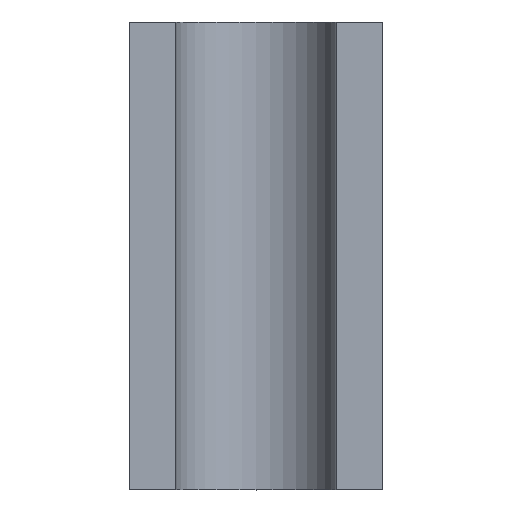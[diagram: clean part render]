
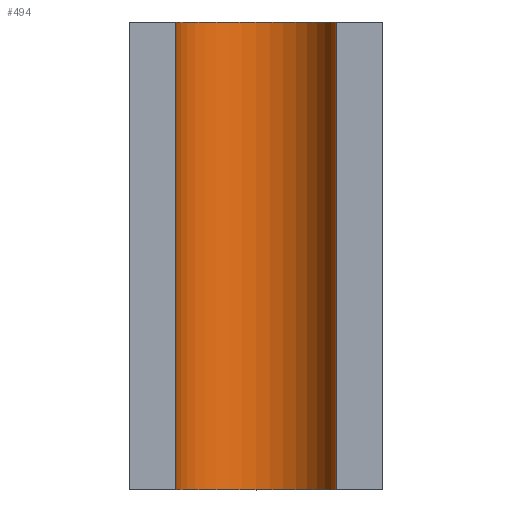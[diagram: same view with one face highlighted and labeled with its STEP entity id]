
A CAD part, top view. The second image highlights one B-rep face of the part: STEP entity #494.
In plain terms, the highlighted cylindrical face has radius 0.685 mm (diameter 1.37 mm), a partial arc.
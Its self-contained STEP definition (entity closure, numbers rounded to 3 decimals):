
#45 = PLANE('',#46);
#46 = AXIS2_PLACEMENT_3D('',#47,#48,#49);
#47 = CARTESIAN_POINT('',(31.5,-18.,-21.));
#48 = DIRECTION('',(0.,1.,0.));
#49 = DIRECTION('',(0.,-0.,1.));
#72 = PLANE('',#73);
#73 = AXIS2_PLACEMENT_3D('',#74,#75,#76);
#74 = CARTESIAN_POINT('',(30.,-22.,-21.));
#75 = DIRECTION('',(0.,0.,1.));
#76 = DIRECTION('',(1.,0.,-0.));
#100 = PLANE('',#101);
#101 = AXIS2_PLACEMENT_3D('',#102,#103,#104);
#102 = CARTESIAN_POINT('',(31.5,-22.,-21.));
#103 = DIRECTION('',(0.,1.,0.));
#104 = DIRECTION('',(0.,-0.,1.));
#281 = PLANE('',#282);
#282 = AXIS2_PLACEMENT_3D('',#283,#284,#285);
#283 = CARTESIAN_POINT('',(30.,-22.,-21.));
#284 = DIRECTION('',(0.,0.,1.));
#285 = DIRECTION('',(1.,0.,-0.));
#296 = VERTEX_POINT('',#297);
#297 = CARTESIAN_POINT('',(32.185,-18.,-21.));
#322 = VERTEX_POINT('',#323);
#323 = CARTESIAN_POINT('',(30.815,-18.,-21.));
#344 = EDGE_CURVE('',#296,#322,#345,.T.);
#345 = SURFACE_CURVE('',#346,(#351,#358),.PCURVE_S1.);
#346 = CIRCLE('',#347,0.685);
#347 = AXIS2_PLACEMENT_3D('',#348,#349,#350);
#348 = CARTESIAN_POINT('',(31.5,-18.,-21.));
#349 = DIRECTION('',(0.,1.,0.));
#350 = DIRECTION('',(0.,-0.,1.));
#351 = PCURVE('',#45,#352);
#352 = DEFINITIONAL_REPRESENTATION('',(#353),#357);
#353 = CIRCLE('',#354,0.685);
#354 = AXIS2_PLACEMENT_2D('',#355,#356);
#355 = CARTESIAN_POINT('',(0.,0.));
#356 = DIRECTION('',(1.,0.));
#357 = ( GEOMETRIC_REPRESENTATION_CONTEXT(2) 
PARAMETRIC_REPRESENTATION_CONTEXT() REPRESENTATION_CONTEXT('2D SPACE',''
  ) );
#358 = PCURVE('',#359,#364);
#359 = CYLINDRICAL_SURFACE('',#360,0.685);
#360 = AXIS2_PLACEMENT_3D('',#361,#362,#363);
#361 = CARTESIAN_POINT('',(31.5,-22.1,-21.));
#362 = DIRECTION('',(0.,1.,0.));
#363 = DIRECTION('',(0.,-0.,1.));
#364 = DEFINITIONAL_REPRESENTATION('',(#365),#369);
#365 = LINE('',#366,#367);
#366 = CARTESIAN_POINT('',(0.,4.1));
#367 = VECTOR('',#368,1.);
#368 = DIRECTION('',(1.,0.));
#369 = ( GEOMETRIC_REPRESENTATION_CONTEXT(2) 
PARAMETRIC_REPRESENTATION_CONTEXT() REPRESENTATION_CONTEXT('2D SPACE',''
  ) );
#377 = VERTEX_POINT('',#378);
#378 = CARTESIAN_POINT('',(30.815,-22.,-21.));
#399 = EDGE_CURVE('',#377,#322,#400,.T.);
#400 = SURFACE_CURVE('',#401,(#405,#411),.PCURVE_S1.);
#401 = LINE('',#402,#403);
#402 = CARTESIAN_POINT('',(30.815,-22.1,-21.));
#403 = VECTOR('',#404,1.);
#404 = DIRECTION('',(0.,1.,0.));
#405 = PCURVE('',#281,#406);
#406 = DEFINITIONAL_REPRESENTATION('',(#407),#410);
#407 = B_SPLINE_CURVE_WITH_KNOTS('',1,(#408,#409),.UNSPECIFIED.,.F.,.F.,
  (2,2),(0.1,4.1),.PIECEWISE_BEZIER_KNOTS.);
#408 = CARTESIAN_POINT('',(0.815,0.));
#409 = CARTESIAN_POINT('',(0.815,4.));
#410 = ( GEOMETRIC_REPRESENTATION_CONTEXT(2) 
PARAMETRIC_REPRESENTATION_CONTEXT() REPRESENTATION_CONTEXT('2D SPACE',''
  ) );
#411 = PCURVE('',#359,#412);
#412 = DEFINITIONAL_REPRESENTATION('',(#413),#416);
#413 = B_SPLINE_CURVE_WITH_KNOTS('',1,(#414,#415),.UNSPECIFIED.,.F.,.F.,
  (2,2),(0.1,4.1),.PIECEWISE_BEZIER_KNOTS.);
#414 = CARTESIAN_POINT('',(4.712,0.1));
#415 = CARTESIAN_POINT('',(4.712,4.1));
#416 = ( GEOMETRIC_REPRESENTATION_CONTEXT(2) 
PARAMETRIC_REPRESENTATION_CONTEXT() REPRESENTATION_CONTEXT('2D SPACE',''
  ) );
#422 = VERTEX_POINT('',#423);
#423 = CARTESIAN_POINT('',(32.185,-22.,-21.));
#448 = EDGE_CURVE('',#422,#377,#449,.T.);
#449 = SURFACE_CURVE('',#450,(#455,#462),.PCURVE_S1.);
#450 = CIRCLE('',#451,0.685);
#451 = AXIS2_PLACEMENT_3D('',#452,#453,#454);
#452 = CARTESIAN_POINT('',(31.5,-22.,-21.));
#453 = DIRECTION('',(0.,1.,0.));
#454 = DIRECTION('',(0.,-0.,1.));
#455 = PCURVE('',#100,#456);
#456 = DEFINITIONAL_REPRESENTATION('',(#457),#461);
#457 = CIRCLE('',#458,0.685);
#458 = AXIS2_PLACEMENT_2D('',#459,#460);
#459 = CARTESIAN_POINT('',(0.,0.));
#460 = DIRECTION('',(1.,0.));
#461 = ( GEOMETRIC_REPRESENTATION_CONTEXT(2) 
PARAMETRIC_REPRESENTATION_CONTEXT() REPRESENTATION_CONTEXT('2D SPACE',''
  ) );
#462 = PCURVE('',#359,#463);
#463 = DEFINITIONAL_REPRESENTATION('',(#464),#468);
#464 = LINE('',#465,#466);
#465 = CARTESIAN_POINT('',(0.,0.1));
#466 = VECTOR('',#467,1.);
#467 = DIRECTION('',(1.,0.));
#468 = ( GEOMETRIC_REPRESENTATION_CONTEXT(2) 
PARAMETRIC_REPRESENTATION_CONTEXT() REPRESENTATION_CONTEXT('2D SPACE',''
  ) );
#474 = EDGE_CURVE('',#422,#296,#475,.T.);
#475 = SURFACE_CURVE('',#476,(#480,#486),.PCURVE_S1.);
#476 = LINE('',#477,#478);
#477 = CARTESIAN_POINT('',(32.185,-22.1,-21.));
#478 = VECTOR('',#479,1.);
#479 = DIRECTION('',(0.,1.,0.));
#480 = PCURVE('',#72,#481);
#481 = DEFINITIONAL_REPRESENTATION('',(#482),#485);
#482 = B_SPLINE_CURVE_WITH_KNOTS('',1,(#483,#484),.UNSPECIFIED.,.F.,.F.,
  (2,2),(0.1,4.1),.PIECEWISE_BEZIER_KNOTS.);
#483 = CARTESIAN_POINT('',(2.185,0.));
#484 = CARTESIAN_POINT('',(2.185,4.));
#485 = ( GEOMETRIC_REPRESENTATION_CONTEXT(2) 
PARAMETRIC_REPRESENTATION_CONTEXT() REPRESENTATION_CONTEXT('2D SPACE',''
  ) );
#486 = PCURVE('',#359,#487);
#487 = DEFINITIONAL_REPRESENTATION('',(#488),#491);
#488 = B_SPLINE_CURVE_WITH_KNOTS('',1,(#489,#490),.UNSPECIFIED.,.F.,.F.,
  (2,2),(0.1,4.1),.PIECEWISE_BEZIER_KNOTS.);
#489 = CARTESIAN_POINT('',(1.571,0.1));
#490 = CARTESIAN_POINT('',(1.571,4.1));
#491 = ( GEOMETRIC_REPRESENTATION_CONTEXT(2) 
PARAMETRIC_REPRESENTATION_CONTEXT() REPRESENTATION_CONTEXT('2D SPACE',''
  ) );
#494 = ADVANCED_FACE('',(#495),#359,.F.);
#495 = FACE_BOUND('',#496,.F.);
#496 = EDGE_LOOP('',(#497,#498,#499,#500));
#497 = ORIENTED_EDGE('',*,*,#344,.F.);
#498 = ORIENTED_EDGE('',*,*,#474,.F.);
#499 = ORIENTED_EDGE('',*,*,#448,.T.);
#500 = ORIENTED_EDGE('',*,*,#399,.T.);
